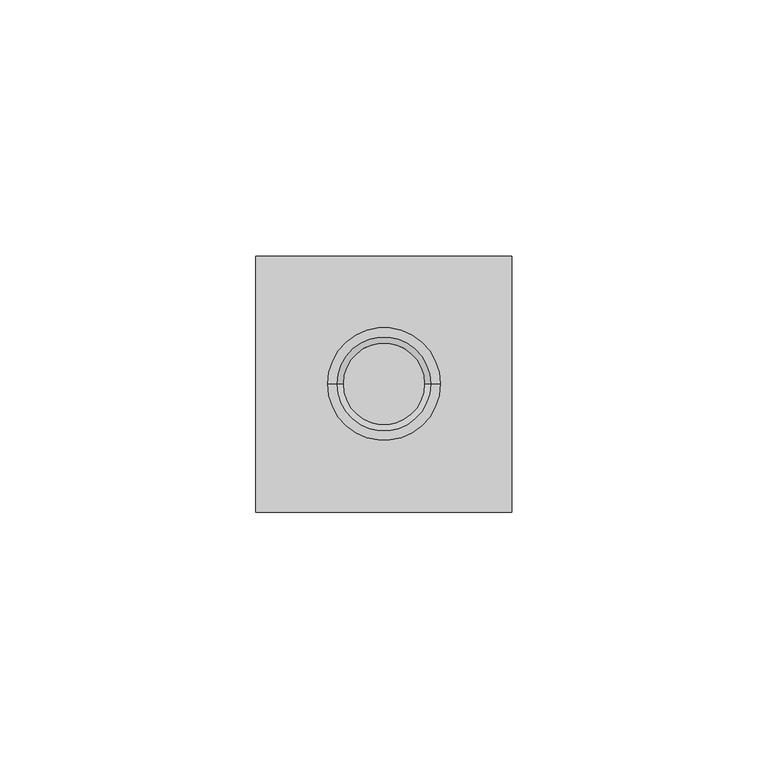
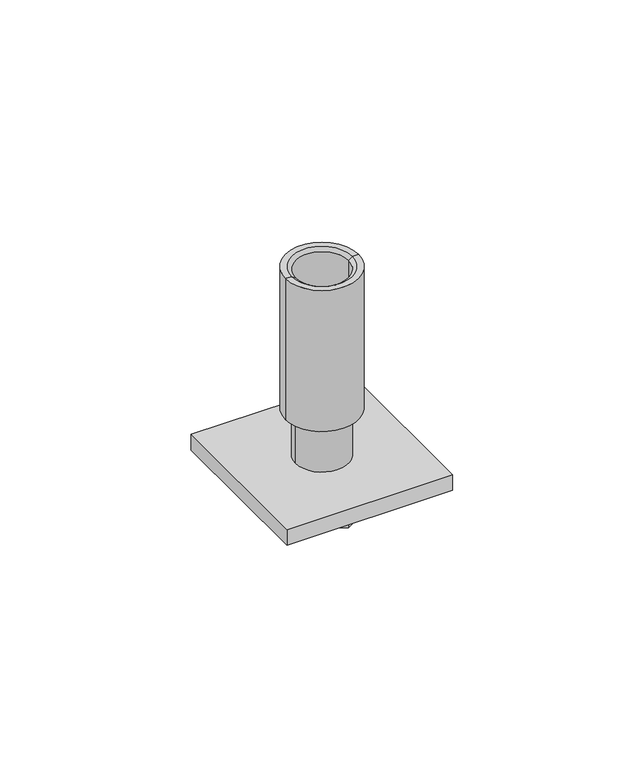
"""IFC4 building model written with IfcOpenShell, lengths in millimetres: fastener geometry, REC-HBP M16-75 EV : HBP M16-75 EV."""

from ifc_helpers import new_model, si_unit, point, frame, origin, origin_with_axes, origin_2d, place, context, project, spatial, polyline, circle_curve, trimmed, segment, composite_curve, outline, extrude, source, transform, mapped, element, save
from ifc_brep_helpers import plane_surface, cylinder_surface, revolved_surface, advanced_brep


def fastener_2a2ea2da(model_context):
    return source(origin(), model_context, "Body", "SolidModel", [
        advanced_brep(
        [(-9.2, 0.0, 0.0), (9.2, 0.0, 0.0), (11.0, 0.0, 0.0), (-11.0, 0.0, 0.0), (-8.0, 0.0, -0.8571429), (8.0, 0.0, -0.8571429), (-8.0, 0.0, -45.0), (8.0, 0.0, -45.0), (-11.0, 0.0, -45.0), (11.0, 0.0, -45.0)],
        [
            (0, 1, circle_curve(frame((0.0, 0.0, 0.0), z_axis=(0.0, 0.0, -1.0), x_axis=(1.0, 0.0, 0.0)), 9.2)),
            (1, 2),
            (2, 3, circle_curve(origin_with_axes(), 11.0)),
            (3, 0),
            (1, 0, circle_curve(frame((0.0, 0.0, 0.0), z_axis=(0.0, 0.0, -1.0), x_axis=(1.0, 0.0, 0.0)), 9.2)),
            (3, 2, circle_curve(origin_with_axes(), 11.0)),
            (4, 5, circle_curve(frame((0.0, 0.0, -0.8571429), z_axis=(0.0, 0.0, -1.0), x_axis=(1.0, 0.0, 0.0)), 8.0)),
            (5, 1),
            (0, 4),
            (5, 4, circle_curve(frame((0.0, 0.0, -0.8571429), z_axis=(0.0, 0.0, -1.0), x_axis=(1.0, 0.0, 0.0)), 8.0)),
            (6, 7, circle_curve(frame((0.0, 0.0, -45.0), z_axis=(0.0, 0.0, -1.0), x_axis=(1.0, 0.0, 0.0)), 8.0)),
            (7, 5),
            (4, 6),
            (7, 6, circle_curve(frame((0.0, 0.0, -45.0), z_axis=(0.0, 0.0, -1.0), x_axis=(1.0, 0.0, 0.0)), 8.0)),
            (8, 9, circle_curve(frame((0.0, 0.0, -45.0), z_axis=(0.0, 0.0, -1.0), x_axis=(1.0, 0.0, 0.0)), 11.0)),
            (9, 7),
            (6, 8),
            (9, 8, circle_curve(frame((0.0, 0.0, -45.0), z_axis=(0.0, 0.0, -1.0), x_axis=(1.0, 0.0, 0.0)), 11.0)),
            (2, 9),
            (8, 3),
        ],
        [
            plane_surface(origin_with_axes()),
            revolved_surface(polyline([(9.2, 0.0, 0.0), (8.0, 0.0, -0.8571429)]), (0.0, 0.0, 3.2703406), (0.0, 0.0, 1.0)),
            revolved_surface(polyline([(8.0, 0.0, -0.8571429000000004), (8.0, 0.0, -45.0)]), (0.0, 0.0, 3.2703406), (0.0, 0.0, 1.0)),
            plane_surface(frame((0.0, 0.0, -45.0), z_axis=(0.0, 0.0, -1.0), x_axis=(1.0, 0.0, 0.0))),
            cylinder_surface(frame((0.0, 0.0, 3.2703406), z_axis=(0.0, 0.0, 1.0), x_axis=(1.0, 0.0, 0.0)), 11.0),
        ],
        [
            (0, [[1, 2, 3, 4]]),
            (0, [[5, -4, 6, -2]]),
            (1, [[7, 8, -1, 9]]),
            (1, [[10, -9, -5, -8]]),
            (2, [[11, 12, -7, 13]]),
            (2, [[14, -13, -10, -12]]),
            (3, [[15, 16, -11, 17]]),
            (3, [[18, -17, -14, -16]]),
            (4, [[-3, 19, -15, 20]]),
            (4, [[-6, -20, -18, -19]]),
        ],
    ),
        extrude(outline(composite_curve([segment(trimmed(circle_curve(origin_2d(), 8.0), [point((-8.0, 0.0))], [point((8.0, 0.0))], False, "CARTESIAN"), True, "CONTINUOUS"), segment(trimmed(circle_curve(origin_2d(), 8.0), [point((8.0, 0.0))], [point((-8.0, 0.0))], False, "CARTESIAN"), True, "CONTINUOUS")], self_intersect=False)), frame((0.0, 0.0, -60.0), z_axis=(0.0, 0.0, 1.0), x_axis=(1.0, 0.0, 0.0)), (0.0, 0.0, 1.0), 37.5),
        extrude(outline(polyline([(25.0, 25.0), (25.0, -25.0), (-25.0, -25.0), (-25.0, 25.0), (25.0, 25.0)])), frame((0.0, 0.0, -65.0), z_axis=(0.0, 0.0, 1.0), x_axis=(1.0, 0.0, 0.0)), (0.0, 0.0, 1.0), 5.0),
        extrude(outline(polyline([(-12.0, 6.9282032), (0.0, 13.8564065), (12.0, 6.9282032), (12.0, -6.9282032), (0.0, -13.8564065), (-12.0, -6.9282032), (-12.0, 6.9282032)])), frame((0.0, 0.0, -75.0), z_axis=(0.0, 0.0, 1.0), x_axis=(1.0, 0.0, 0.0)), (0.0, 0.0, 1.0), 10.0),
    ])


if __name__ == "__main__":
    model = new_model("IFC4")
    model_context = context("Model", 3, world=origin())
    ifc_project = project(units=[si_unit("LENGTHUNIT", "METRE", prefix="MILLI")], contexts=[model_context])
    site = spatial("IfcSite", under=ifc_project)
    building = spatial("IfcBuilding", under=site)
    placement = place(None, origin())
    fastener_shape = fastener_2a2ea2da(model_context)
    element("IfcFastener", 1, ObjectType="REC-HBP M16-75 EV : HBP M16-75 EV", at=placement, inside=building, context=model_context, shape_type="MappedRepresentation", body=[
        mapped(fastener_shape, transform((0.0, 0.0, 0.0), x_axis=(1.0, 0.0, 0.0), y_axis=(0.0, 1.0, 0.0), z_axis=(0.0, 0.0, 1.0))),
    ])
    save(model, "model.ifc")
